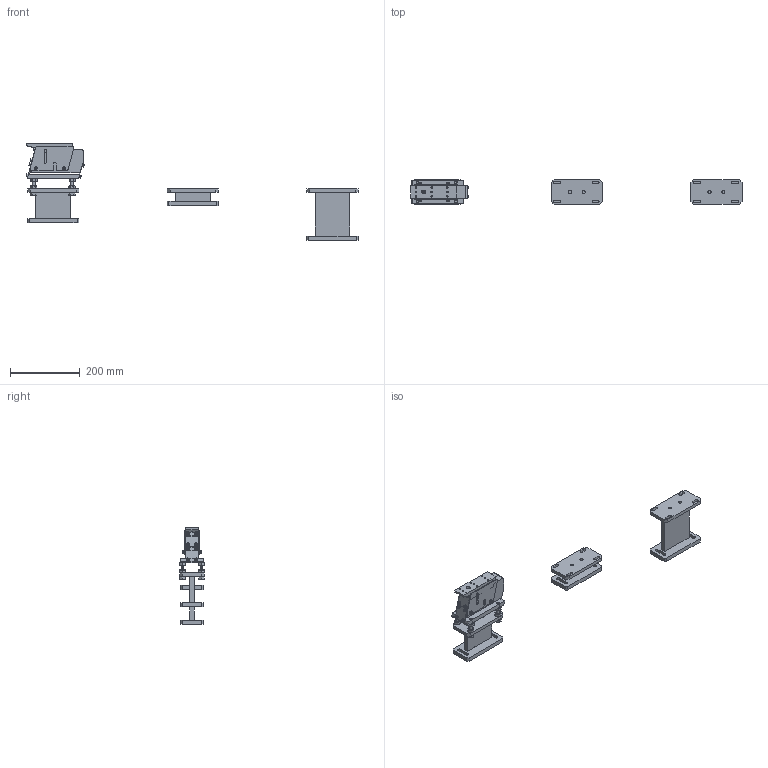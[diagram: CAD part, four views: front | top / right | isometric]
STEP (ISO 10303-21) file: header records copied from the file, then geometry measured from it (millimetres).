
FILE_DESCRIPTION (( 'STEP AP203' ), '1' );
FILE_NAME ('ZA130 盓殤恁饜 23.05.07 載陔.STEP', '2023-05-07T01:08:56', ( '' ), ( '' ), 'SwSTEP 2.0', 'SolidWorks 2022', '' );
FILE_SCHEMA (( 'CONFIG_CONTROL_DESIGN' ));
Length unit declared in the file: millimetre
Products named in the file (1): ZA130  盓殤恁饜 23.05.07  載陔
Bounding box: 954.01 x 71 x 278 mm (x, y, z)
Volume: 1494954.2 mm3; surface area: 347816.9 mm2
Topology: 45 solids, 48 shells, 1057 faces, 2549 edges, 1586 vertices
Faces by surface type: plane 556, cylinder 283, cone 186, torus 32
Entity records: 31814 total; most frequent: CARTESIAN_POINT 6905, DIRECTION 5269, ORIENTED_EDGE 4994, EDGE_CURVE 2497, AXIS2_PLACEMENT_3D 1924, VERTEX_POINT 1586, VECTOR 1421, LINE 1421
